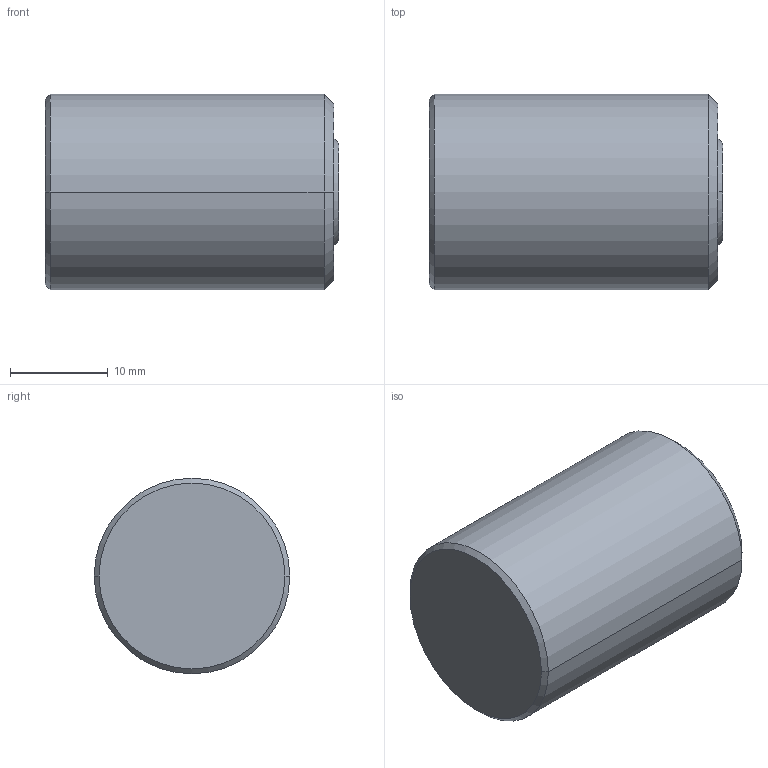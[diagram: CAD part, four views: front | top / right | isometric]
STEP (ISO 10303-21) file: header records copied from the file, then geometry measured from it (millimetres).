
FILE_DESCRIPTION((''),'2;1');
FILE_NAME('S600-2','2006-08-10T',('PAw'),(''),'PRO/ENGINEER BY PARAMETRIC TECHNOLOGY CORPORATION, 2004320','PRO/ENGINEER BY PARAMETRIC TECHNOLOGY CORPORATION, 2004320','');
FILE_SCHEMA(('CONFIG_CONTROL_DESIGN'));
Length unit declared in the file: millimetre
Products named in the file (1): S600-2
Bounding box: 30 x 20 x 20 mm (x, y, z)
Volume: 9272.9 mm3; surface area: 2431.9 mm2
Topology: 1 solids, 1 shells, 11 faces, 20 edges, 12 vertices
Faces by surface type: cone 6, plane 3, cylinder 2
Entity records: 312 total; most frequent: DIRECTION 54, CARTESIAN_POINT 43, ORIENTED_EDGE 40, AXIS2_PLACEMENT_3D 23, EDGE_CURVE 20, VERTEX_POINT 12, EDGE_LOOP 12, CIRCLE 12
